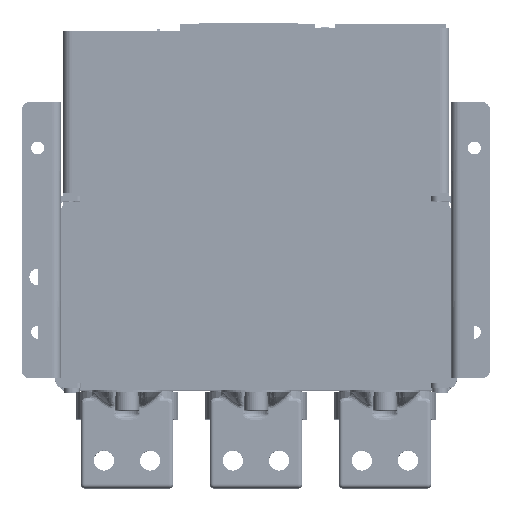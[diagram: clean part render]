
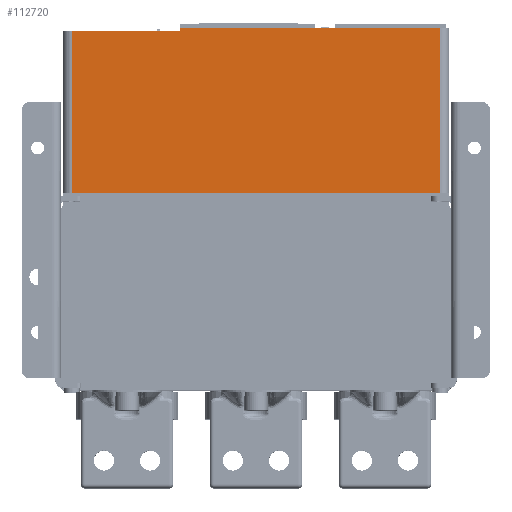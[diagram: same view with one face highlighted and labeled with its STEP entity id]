
A CAD part, top view. The second image highlights one B-rep face of the part: STEP entity #112720.
In plain terms, the highlighted planar face has unit normal (0, 0, 1).
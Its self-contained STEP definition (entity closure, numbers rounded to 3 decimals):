
#46344=DIRECTION('',(0.,-1.,0.));
#46345=VECTOR('',#46344,141.5);
#46346=CARTESIAN_POINT('',(0.,-5.,275.));
#46347=LINE('',#46346,#46345);
#71218=DIRECTION('',(0.,-1.,0.));
#71219=VECTOR('',#71218,200.);
#71220=CARTESIAN_POINT('',(89.5,-5.,275.));
#71221=LINE('',#71220,#71219);
#71754=DIRECTION('',(-1.,0.,0.));
#71755=VECTOR('',#71754,88.);
#71756=CARTESIAN_POINT('',(89.5,-205.,275.));
#71757=LINE('',#71756,#71755);
#71761=DIRECTION('',(0.,1.,0.));
#71762=VECTOR('',#71761,58.5);
#71763=CARTESIAN_POINT('',(1.5,-205.,275.));
#71764=LINE('',#71763,#71762);
#71768=DIRECTION('',(1.,0.,0.));
#71769=VECTOR('',#71768,1.5);
#71770=CARTESIAN_POINT('',(0.,-146.5,275.));
#71771=LINE('',#71770,#71769);
#71775=DIRECTION('',(-1.,0.,0.));
#71776=VECTOR('',#71775,89.5);
#71777=CARTESIAN_POINT('',(89.5,-5.,275.));
#71778=LINE('',#71777,#71776);
#91845=CARTESIAN_POINT('',(0.,-146.5,275.));
#91846=CARTESIAN_POINT('',(1.5,-146.5,275.));
#91847=VERTEX_POINT('',#91845);
#91848=VERTEX_POINT('',#91846);
#92126=CARTESIAN_POINT('',(1.5,-205.,275.));
#92128=VERTEX_POINT('',#92126);
#92129=CARTESIAN_POINT('',(89.5,-205.,275.));
#92130=VERTEX_POINT('',#92129);
#92133=CARTESIAN_POINT('',(0.,-5.,275.));
#92135=VERTEX_POINT('',#92133);
#92139=CARTESIAN_POINT('',(89.5,-5.,275.));
#92140=VERTEX_POINT('',#92139);
#112706=CARTESIAN_POINT('',(0.,0.,275.));
#112707=DIRECTION('',(0.,0.,1.));
#112708=DIRECTION('',(0.,-1.,0.));
#112709=AXIS2_PLACEMENT_3D('',#112706,#112707,#112708);
#112710=PLANE('',#112709);
#112711=ORIENTED_EDGE('',*,*,#112699,.T.);
#112712=ORIENTED_EDGE('',*,*,#104103,.T.);
#112713=ORIENTED_EDGE('',*,*,#100761,.F.);
#112714=ORIENTED_EDGE('',*,*,#98200,.F.);
#112716=ORIENTED_EDGE('',*,*,#112715,.F.);
#112717=ORIENTED_EDGE('',*,*,#112221,.T.);
#112718=EDGE_LOOP('',(#112711,#112712,#112713,#112714,#112716,#112717));
#112719=FACE_OUTER_BOUND('',#112718,.F.);
#112720=ADVANCED_FACE('',(#112719),#112710,.T.);
#98200=EDGE_CURVE('',#92135,#91847,#46347,.T.);
#100761=EDGE_CURVE('',#91847,#91848,#71771,.T.);
#104103=EDGE_CURVE('',#92128,#91848,#71764,.T.);
#112221=EDGE_CURVE('',#92140,#92130,#71221,.T.);
#112699=EDGE_CURVE('',#92130,#92128,#71757,.T.);
#112715=EDGE_CURVE('',#92140,#92135,#71778,.T.);
